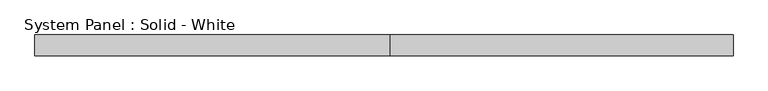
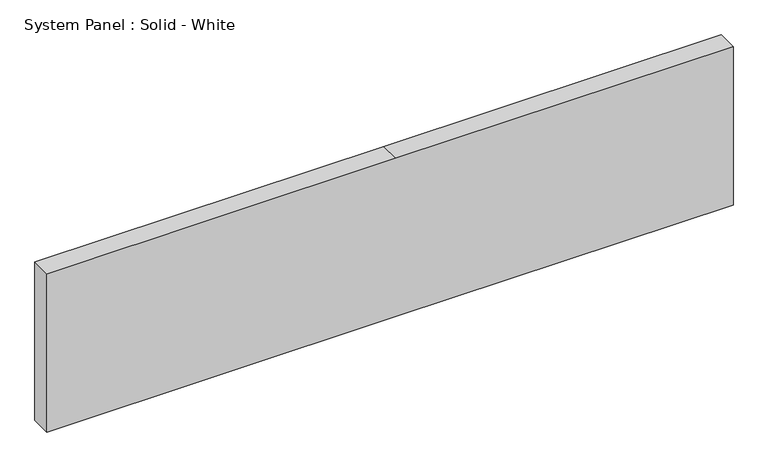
"""IFC4 building model written with IfcOpenShell, lengths in millimetres: plate geometry, System Panel : Solid - White."""

import ifcopenshell
import ifcopenshell.guid

model = None  # the IFC model being written
_history = None  # IfcOwnerHistory: only IFC2X3 demands one
_inside = {}  # id of a spatial element -> (the spatial element, [elements in it])
_under = {}  # id of a project, library or spatial element -> (it, [spatial elements below it])
_declared = {}  # id of a project -> (the project, [libraries it declares])
_typed = {}  # id of a type object -> (the type object, [elements of that type])
_made_of = {}  # id of a material, layer set ... -> (it, [elements and type objects made of it])


def new_model(schema):
    """Start an empty IFC model of exactly this schema.

    Asked for "IFC4X3", IfcOpenShell would pick the latest addendum, in which some entities
    have other attributes; the version numbers below select the first issue.
    IFC2X3 requires an IfcOwnerHistory on every rooted entity: one is made here for all.
    """
    global model, _history
    if schema == "IFC4X3":
        model = ifcopenshell.file(schema_version=(4, 3, 0, 0))
    else:
        model = ifcopenshell.file(schema=schema)
    _inside.clear()
    _under.clear()
    _declared.clear()
    _typed.clear()
    _made_of.clear()
    _history = None
    if model.schema == "IFC2X3":
        org = make("IfcOrganization", Name="unknown")
        user = make(
            "IfcPersonAndOrganization",
            ThePerson=make("IfcPerson", FamilyName="unknown"),
            TheOrganization=org,
        )
        app = make(
            "IfcApplication",
            ApplicationDeveloper=org,
            Version="unknown",
            ApplicationFullName="unknown",
            ApplicationIdentifier="unknown",
        )
        _history = make(
            "IfcOwnerHistory",
            OwningUser=user,
            OwningApplication=app,
            ChangeAction="ADDED",
            CreationDate=0,
        )
    return model


def make(cls, **values):
    """One entity of the class cls with the attributes given. An attribute that is None is left unset."""
    return model.create_entity(
        cls, **{name: value for name, value in values.items() if value is not None}
    )


def rooted(cls, **values):
    """An entity with a GlobalId (a new one), such as an element, a storey or a relation."""
    return make(cls, GlobalId=ifcopenshell.guid.new(), OwnerHistory=_history, **values)


def si_unit(unit_type, name, prefix=None):
    """IfcSIUnit, for example si_unit("LENGTHUNIT", "METRE", prefix="MILLI")."""
    return make("IfcSIUnit", UnitType=unit_type, Prefix=prefix, Name=name)


def assignment(units):
    """IfcUnitAssignment: the units of a project."""
    return None if units is None else make("IfcUnitAssignment", Units=units)


def point(xyz):
    """IfcCartesianPoint."""
    return None if xyz is None else make("IfcCartesianPoint", Coordinates=xyz)


def direction(xyz):
    """IfcDirection."""
    return None if xyz is None else make("IfcDirection", DirectionRatios=xyz)


def frame(location, z_axis=None, x_axis=None):
    """IfcAxis2Placement3D, a coordinate frame: its origin and axes. An axis left out is left unset."""
    return make(
        "IfcAxis2Placement3D",
        Location=point(location),
        Axis=direction(z_axis),
        RefDirection=direction(x_axis),
    )


def origin():
    """The frame at (0, 0, 0) with its axes left unset."""
    return frame((0.0, 0.0, 0.0))


def place(relative_to, where):
    """IfcLocalPlacement: puts the frame where relative to a parent placement (None: the world)."""
    return make(
        "IfcLocalPlacement", PlacementRelTo=relative_to, RelativePlacement=where
    )


def context(
    kind, dimensions, precision=None, world=None, true_north=None, identifier=None
):
    """IfcGeometricRepresentationContext, for example the 3D "Model" context."""
    return make(
        "IfcGeometricRepresentationContext",
        ContextIdentifier=identifier,
        ContextType=kind,
        CoordinateSpaceDimension=dimensions,
        Precision=precision,
        WorldCoordinateSystem=world,
        TrueNorth=true_north,
    )


def project(units=None, contexts=None):
    """IfcProject with its units and contexts."""
    return rooted(
        "IfcProject",
        Name="project",
        RepresentationContexts=contexts,
        UnitsInContext=assignment(units),
    )


def spatial(cls, under=None, at=None, **own):
    """A site, building, storey or space (cls), placed at a placement, below another one or the project."""
    s = rooted(cls, ObjectPlacement=at, **own)
    if under is not None:
        _under.setdefault(under.id(), (under, []))[1].append(s)
    return s


def polyline(points):
    """IfcPolyline through the points."""
    return make("IfcPolyline", Points=[point(p) for p in points])


def outline(outer, holes=None, kind="AREA"):
    """IfcArbitraryClosedProfileDef: a profile drawn as a closed curve; with holes, ...WithVoids."""
    if holes is None:
        return make("IfcArbitraryClosedProfileDef", ProfileType=kind, OuterCurve=outer)
    return make(
        "IfcArbitraryProfileDefWithVoids",
        ProfileType=kind,
        OuterCurve=outer,
        InnerCurves=holes,
    )


def extrude(swept, where, along, depth):
    """IfcExtrudedAreaSolid: the profile swept, set in the frame where, extruded along a direction by depth."""
    return make(
        "IfcExtrudedAreaSolid",
        SweptArea=swept,
        Position=where,
        ExtrudedDirection=direction(along),
        Depth=depth,
    )


def shape(context_of_items, identifier, shape_type, items):
    """IfcShapeRepresentation: the items that make up one representation, for example the "Body"."""
    return make(
        "IfcShapeRepresentation",
        ContextOfItems=context_of_items,
        RepresentationIdentifier=identifier,
        RepresentationType=shape_type,
        Items=items,
    )


def source(mapping_origin, context_of_items, identifier, shape_type, items):
    """IfcRepresentationMap: a shape defined once, which mapped items show again and again."""
    return make(
        "IfcRepresentationMap",
        MappingOrigin=mapping_origin,
        MappedRepresentation=shape(context_of_items, identifier, shape_type, items),
    )


def transform(
    local_origin,
    x_axis=None,
    y_axis=None,
    z_axis=None,
    scale=None,
    scale2=None,
    scale3=None,
    uniform=True,
):
    """IfcCartesianTransformationOperator3D, or its non-uniform kind. x_axis, y_axis, z_axis: its Axis1, 2, 3."""
    if uniform:
        return make(
            "IfcCartesianTransformationOperator3D",
            Axis1=direction(x_axis),
            Axis2=direction(y_axis),
            LocalOrigin=point(local_origin),
            Scale=scale,
            Axis3=direction(z_axis),
        )
    return make(
        "IfcCartesianTransformationOperator3DnonUniform",
        Axis1=direction(x_axis),
        Axis2=direction(y_axis),
        LocalOrigin=point(local_origin),
        Scale=scale,
        Axis3=direction(z_axis),
        Scale2=scale2,
        Scale3=scale3,
    )


def mapped(mapping_source, mapping_target):
    """IfcMappedItem: shows the shape of a source again, moved by a transform."""
    return make(
        "IfcMappedItem", MappingSource=mapping_source, MappingTarget=mapping_target
    )


def made_of(thing, what):
    """Note that an element or type object is made of a material, layer set ...; save() writes the relation."""
    if what is not None:
        _made_of.setdefault(what.id(), (what, []))[1].append(thing)
    return thing


def element(
    cls,
    number,
    at=None,
    inside=None,
    cuts=None,
    type_object=None,
    material=None,
    context=None,
    identifier="Body",
    shape_type=None,
    held_by="IfcProductDefinitionShape",
    body=None,
    shapes=None,
    **own,
):
    """One element of the class cls, such as IfcWall. Its Tag is "e" and its number.

    at: its placement. inside: the storey or other place that contains it. cuts: it is an
    opening in that element (IfcRelVoidsElement). A single representation is given by context,
    identifier, shape_type and body (its items); several are given by shapes. held_by: the class
    of the entity that holds the representations. save() writes the other relations.
    """
    e = rooted(cls, Tag="e%d" % number, ObjectPlacement=at, **own)
    if body is not None:
        shapes = [shape(context, identifier, shape_type, body)]
    if shapes is not None:
        e.Representation = make(held_by, Representations=shapes)
    if inside is not None:
        _inside.setdefault(inside.id(), (inside, []))[1].append(e)
    if cuts is not None:
        rooted(
            "IfcRelVoidsElement", RelatingBuildingElement=cuts, RelatedOpeningElement=e
        )
    if type_object is not None:
        _typed.setdefault(type_object.id(), (type_object, []))[1].append(e)
    return made_of(e, material)


def aggregate(whole, parts):
    """IfcRelAggregates: a whole, such as a stair, and the parts it consists of."""
    return rooted("IfcRelAggregates", RelatingObject=whole, RelatedObjects=parts)


def save(model, path):
    """Write the relations noted so far, then the file.

    IfcRelAggregates (storeys below a building ...), IfcRelContainedInSpatialStructure (elements
    in a storey), IfcRelDefinesByType, IfcRelAssociatesMaterial and IfcRelDeclares: one each for
    every whole, place, type object, material and project.
    """
    for whole, parts in _under.values():
        aggregate(whole, parts)
    for where, things in _inside.values():
        rooted(
            "IfcRelContainedInSpatialStructure",
            RelatedElements=things,
            RelatingStructure=where,
        )
    for kind, things in _typed.values():
        rooted("IfcRelDefinesByType", RelatedObjects=things, RelatingType=kind)
    for what, things in _made_of.values():
        rooted("IfcRelAssociatesMaterial", RelatedObjects=things, RelatingMaterial=what)
    for by, libraries in _declared.values():
        rooted("IfcRelDeclares", RelatingContext=by, RelatedDefinitions=libraries)
    model.write(path)


def system_panel_solid_white_74d800a9(model_context):
    return source(origin(), model_context, "Body", "SweptSolid", [
        extrude(outline(polyline([(0.0, -1053.1928571), (0.0, 18.1428572), (0.0, 1053.1928571), (514.35, 1053.1928571), (514.35, 18.1428572), (514.35, -1053.1928571), (0.0, -1053.1928571)])), frame((0.0, -19.05, 0.0), z_axis=(0.0, 1.0, 0.0), x_axis=(0.0, 0.0, 1.0)), (0.0, 0.0, 1.0), 63.5),
    ])


if __name__ == "__main__":
    model = new_model("IFC4")
    model_context = context("Model", 3, world=origin())
    ifc_project = project(units=[si_unit("LENGTHUNIT", "METRE", prefix="MILLI")], contexts=[model_context])
    site = spatial("IfcSite", under=ifc_project)
    building = spatial("IfcBuilding", under=site)
    placement = place(None, origin())
    system_panel_solid_white_shape = system_panel_solid_white_74d800a9(model_context)
    element("IfcPlate", 1, ObjectType="System Panel : Solid - White", at=placement, inside=building, context=model_context, shape_type="MappedRepresentation", body=[
        mapped(system_panel_solid_white_shape, transform((0.0, 0.0, 0.0), x_axis=(1.0, 0.0, 0.0), y_axis=(0.0, 1.0, 0.0), z_axis=(0.0, 0.0, 1.0))),
    ])
    save(model, "model.ifc")
